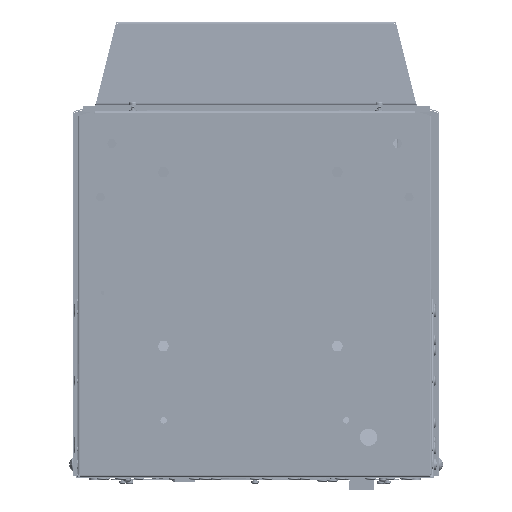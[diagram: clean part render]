
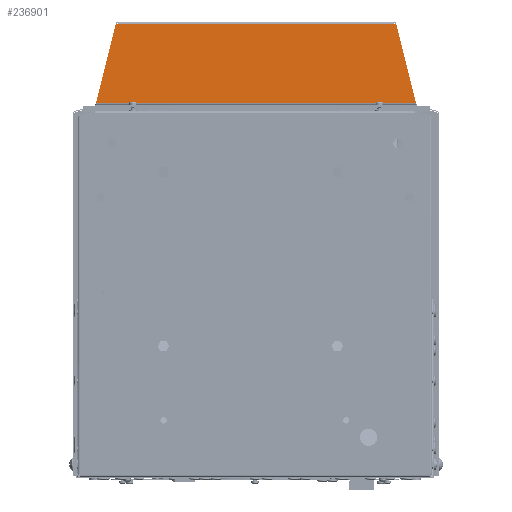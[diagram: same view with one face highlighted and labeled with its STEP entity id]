
A CAD part, front view. The second image highlights one B-rep face of the part: STEP entity #236901.
In plain terms, the highlighted planar face has unit normal (0, -0.999, 0.052).
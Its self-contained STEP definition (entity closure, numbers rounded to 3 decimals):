
#16608 = AXIS2_PLACEMENT_3D ( 'NONE', #586901, #400896, #132765 ) ;
#35153 = CARTESIAN_POINT ( 'NONE',  ( -173.605, 100.448, 213.546 ) ) ;
#38995 = LINE ( 'NONE', #522319, #294499 ) ;
#43524 = CARTESIAN_POINT ( 'NONE',  ( -173.605, 100.552, 215.517 ) ) ;
#60165 = VECTOR ( 'NONE', #532717, 1000. ) ;
#64633 = ORIENTED_EDGE ( 'NONE', *, *, #164875, .F. ) ;
#74854 = ORIENTED_EDGE ( 'NONE', *, *, #142438, .F. ) ;
#76842 = ORIENTED_EDGE ( 'NONE', *, *, #498015, .F. ) ;
#79218 = ORIENTED_EDGE ( 'NONE', *, *, #412487, .T. ) ;
#96676 = ORIENTED_EDGE ( 'NONE', *, *, #550507, .F. ) ;
#109877 = VERTEX_POINT ( 'NONE', #336641 ) ;
#116008 = DIRECTION ( 'NONE',  ( 0.242, -0.051, -0.969 ) ) ;
#132765 = DIRECTION ( 'NONE',  ( 0., 0.052, 0.999 ) ) ;
#142438 = EDGE_CURVE ( 'NONE', #214960, #566883, #356848, .T. ) ;
#160477 = ORIENTED_EDGE ( 'NONE', *, *, #274612, .F. ) ;
#164875 = EDGE_CURVE ( 'NONE', #547366, #214960, #237646, .T. ) ;
#207331 = DIRECTION ( 'NONE',  ( 1., 0., 0. ) ) ;
#214960 = VERTEX_POINT ( 'NONE', #354008 ) ;
#219064 = CARTESIAN_POINT ( 'NONE',  ( 177.782, 100.552, 215.517 ) ) ;
#236901 = ADVANCED_FACE ( 'NONE', ( #532543 ), #271572, .F. ) ;
#237646 = LINE ( 'NONE', #441425, #60165 ) ;
#254719 = CARTESIAN_POINT ( 'NONE',  ( 155.835, 105.159, 303.422 ) ) ;
#255298 = VERTEX_POINT ( 'NONE', #552541 ) ;
#271470 = DIRECTION ( 'NONE',  ( 1., 0., 0. ) ) ;
#271572 = PLANE ( 'NONE',  #16608 ) ;
#271856 = VECTOR ( 'NONE', #576478, 1000. ) ;
#274612 = EDGE_CURVE ( 'NONE', #109877, #255298, #505965, .T. ) ;
#294499 = VECTOR ( 'NONE', #341895, 1000. ) ;
#305425 = CARTESIAN_POINT ( 'NONE',  ( -149.372, 105.119, 302.676 ) ) ;
#336641 = CARTESIAN_POINT ( 'NONE',  ( -173.113, 100.552, 215.517 ) ) ;
#339183 = EDGE_LOOP ( 'NONE', ( #79218, #74854, #64633, #76842, #96676, #160477 ) ) ;
#341895 = DIRECTION ( 'NONE',  ( 1., 0., 0. ) ) ;
#347800 = VERTEX_POINT ( 'NONE', #305425 ) ;
#354008 = CARTESIAN_POINT ( 'NONE',  ( 156.021, 105.119, 302.676 ) ) ;
#356848 = LINE ( 'NONE', #254719, #463748 ) ;
#386191 = CARTESIAN_POINT ( 'NONE',  ( 156.021, 105.119, 302.676 ) ) ;
#393788 = VECTOR ( 'NONE', #271470, 1000. ) ;
#396414 = CARTESIAN_POINT ( 'NONE',  ( 154.041, 105.119, 302.676 ) ) ;
#400896 = DIRECTION ( 'NONE',  ( 0., 0.999, -0.052 ) ) ;
#412487 = EDGE_CURVE ( 'NONE', #109877, #566883, #577801, .T. ) ;
#441425 = CARTESIAN_POINT ( 'NONE',  ( 156.021, 105.119, 302.676 ) ) ;
#463748 = VECTOR ( 'NONE', #116008, 1000. ) ;
#498015 = EDGE_CURVE ( 'NONE', #347800, #547366, #539709, .T. ) ;
#505965 = LINE ( 'NONE', #35153, #271856 ) ;
#522319 = CARTESIAN_POINT ( 'NONE',  ( 156.021, 105.119, 302.676 ) ) ;
#532543 = FACE_OUTER_BOUND ( 'NONE', #339183, .T. ) ;
#532717 = DIRECTION ( 'NONE',  ( 1., 0., 0. ) ) ;
#539709 = LINE ( 'NONE', #386191, #553761 ) ;
#547366 = VERTEX_POINT ( 'NONE', #396414 ) ;
#550507 = EDGE_CURVE ( 'NONE', #255298, #347800, #38995, .T. ) ;
#552541 = CARTESIAN_POINT ( 'NONE',  ( -151.352, 105.119, 302.676 ) ) ;
#553761 = VECTOR ( 'NONE', #207331, 1000. ) ;
#566883 = VERTEX_POINT ( 'NONE', #219064 ) ;
#576478 = DIRECTION ( 'NONE',  ( 0.242, 0.051, 0.969 ) ) ;
#577801 = LINE ( 'NONE', #43524, #393788 ) ;
#586901 = CARTESIAN_POINT ( 'NONE',  ( 2.335, 105.714, 314.022 ) ) ;
